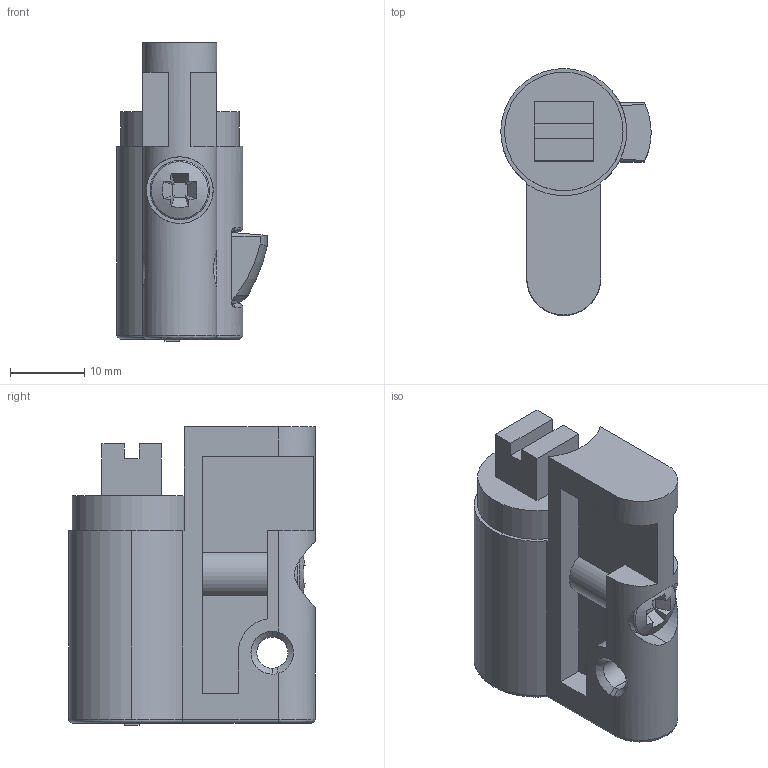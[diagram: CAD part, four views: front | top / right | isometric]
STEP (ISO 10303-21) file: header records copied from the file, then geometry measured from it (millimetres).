
FILE_DESCRIPTION (( 'STEP AP203' ), '1' );
FILE_NAME ('LSSU524_V0.STEP', '2018-10-08T06:26:07', ( '' ), ( '' ), 'SwSTEP 2.0', 'SolidWorks 2017', '' );
FILE_SCHEMA (( 'CONFIG_CONTROL_DESIGN' ));
Length unit declared in the file: millimetre
Products named in the file (6): 1109-22; 1109-21_1; 1109-20-01; LSSU524_V0; 1109-25_1; 1121-14-14
Assembly tree (5 placements, depth 2):
  LSSU524_V0
    1109-20-01
    1109-21_1
    1109-22
    1109-25_1
    1121-14-14
Bounding box: 20.3 x 33.3 x 40.3 mm (x, y, z)
Volume: 11000.4 mm3; surface area: 8777.2 mm2
Topology: 5 solids, 5 shells, 609 faces, 1453 edges, 869 vertices
Faces by surface type: bspline 262, plane 156, cylinder 138, cone 49, torus 4
Entity records: 56082 total; most frequent: CARTESIAN_POINT 43692, ORIENTED_EDGE 2904, DIRECTION 1608, EDGE_CURVE 1452, VERTEX_POINT 869, B_SPLINE_CURVE_WITH_KNOTS 747, EDGE_LOOP 631, ADVANCED_FACE 609
